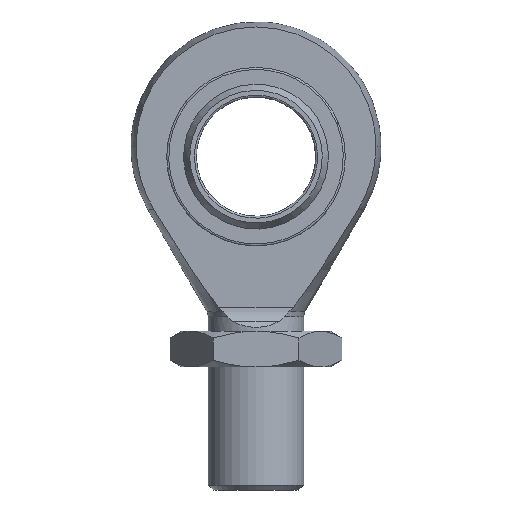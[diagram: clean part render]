
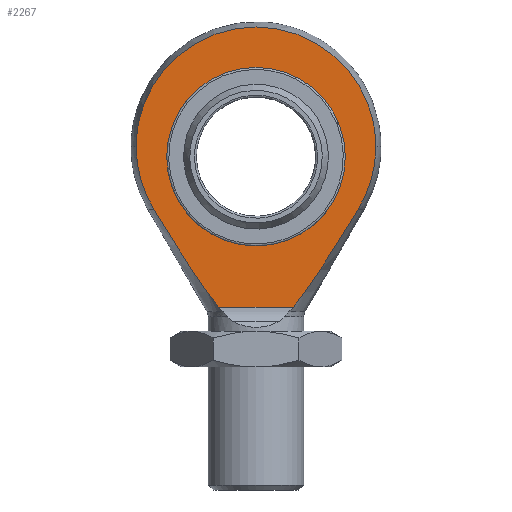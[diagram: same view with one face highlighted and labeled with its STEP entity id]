
A CAD part, front view. The second image highlights one B-rep face of the part: STEP entity #2267.
In plain terms, the highlighted free-form (B-spline) face has degree [1, 1] with [2, 2] control points.
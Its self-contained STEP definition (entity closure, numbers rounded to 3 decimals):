
#202=CARTESIAN_POINT('',(51.505,-18.,-31.5));
#203=CARTESIAN_POINT('',(49.885,-18.,-34.149));
#204=CARTESIAN_POINT('',(46.806,-18.,-39.155));
#205=CARTESIAN_POINT('',(42.706,-18.,-45.743));
#206=CARTESIAN_POINT('',(39.043,-18.,-51.549));
#207=CARTESIAN_POINT('',(35.767,-18.,-56.661));
#208=CARTESIAN_POINT('',(32.825,-18.,-61.172));
#209=CARTESIAN_POINT('',(30.184,-18.,-65.143));
#210=CARTESIAN_POINT('',(27.806,-18.,-68.642));
#211=CARTESIAN_POINT('',(25.663,-18.,-71.719));
#212=CARTESIAN_POINT('',(23.726,-18.,-74.43));
#213=CARTESIAN_POINT('',(21.963,-18.,-76.828));
#214=CARTESIAN_POINT('',(20.346,-18.,-78.959));
#215=CARTESIAN_POINT('',(19.335,-18.,-80.249));
#216=CARTESIAN_POINT('',(18.849,-18.,-80.858));
#218=CARTESIAN_POINT('',(0.,-18.,0.));
#219=DIRECTION('',(0.,1.,0.));
#220=DIRECTION('',(1.,0.,0.));
#221=AXIS2_PLACEMENT_3D('',#218,#219,#220);
#228=CARTESIAN_POINT('',(0.,-18.,-5.));
#229=DIRECTION('',(0.,1.,0.));
#230=DIRECTION('',(0.,0.,-1.));
#231=AXIS2_PLACEMENT_3D('',#228,#229,#230);
#233=CARTESIAN_POINT('',(0.,-18.,-5.));
#234=DIRECTION('',(0.,1.,0.));
#235=DIRECTION('',(0.,0.,1.));
#236=AXIS2_PLACEMENT_3D('',#233,#234,#235);
#254=CARTESIAN_POINT('',(-18.849,-18.,-80.858));
#255=CARTESIAN_POINT('',(-19.308,-18.,-80.283));
#256=CARTESIAN_POINT('',(-20.249,-18.,-79.084));
#257=CARTESIAN_POINT('',(-21.71,-18.,-77.163));
#258=CARTESIAN_POINT('',(-23.273,-18.,-75.05));
#259=CARTESIAN_POINT('',(-24.965,-18.,-72.702));
#260=CARTESIAN_POINT('',(-26.821,-18.,-70.063));
#261=CARTESIAN_POINT('',(-28.872,-18.,-67.081));
#262=CARTESIAN_POINT('',(-31.147,-18.,-63.703));
#263=CARTESIAN_POINT('',(-33.676,-18.,-59.875));
#264=CARTESIAN_POINT('',(-36.49,-18.,-55.538));
#265=CARTESIAN_POINT('',(-39.62,-18.,-50.639));
#266=CARTESIAN_POINT('',(-43.116,-18.,-45.087));
#267=CARTESIAN_POINT('',(-47.027,-18.,-38.796));
#268=CARTESIAN_POINT('',(-49.961,-18.,-34.024));
#269=CARTESIAN_POINT('',(-51.505,-18.,-31.5));
#358=CARTESIAN_POINT('',(-18.849,-18.,-80.858));
#366=DIRECTION('',(-1.,0.,0.));
#367=VECTOR('',#366,37.697);
#368=CARTESIAN_POINT('',(18.849,-18.,-80.858));
#369=LINE('',#368,#367);
#376=CARTESIAN_POINT('',(18.849,-18.,-80.858));
#1004=CARTESIAN_POINT('',(0.,-18.,0.));
#1005=DIRECTION('',(0.,1.,0.));
#1006=DIRECTION('',(-0.853,0.,-0.522));
#1007=AXIS2_PLACEMENT_3D('',#1004,#1005,#1006);
#1034=CARTESIAN_POINT('',(0.,-18.,0.));
#1035=DIRECTION('',(0.,-1.,0.));
#1036=DIRECTION('',(1.,0.,0.));
#1037=AXIS2_PLACEMENT_3D('',#1034,#1035,#1036);
#1217=VERTEX_POINT('',#358);
#1267=CARTESIAN_POINT('',(0.,-18.,-50.));
#1268=CARTESIAN_POINT('',(0.,-18.,40.));
#1269=VERTEX_POINT('',#1267);
#1270=VERTEX_POINT('',#1268);
#1283=VERTEX_POINT('',#376);
#1308=VERTEX_POINT('',#269);
#1310=VERTEX_POINT('',#202);
#1315=CARTESIAN_POINT('',(-60.374,-18.,0.));
#1316=VERTEX_POINT('',#1315);
#1318=CARTESIAN_POINT('',(60.374,-18.,0.));
#1320=VERTEX_POINT('',#1318);
#2244=CARTESIAN_POINT('',(-62.789,-18.,63.203));
#2245=CARTESIAN_POINT('',(62.789,-18.,63.203));
#2246=CARTESIAN_POINT('',(-62.789,-18.,-83.683));
#2247=CARTESIAN_POINT('',(62.789,-18.,-83.683));
#2248=B_SPLINE_SURFACE_WITH_KNOTS('',1,1,((#2244,#2245),(#2246,#2247)),
.UNSPECIFIED.,.F.,.F.,.F.,(2,2),(2,2),(-2.829,144.056),(
32.211,157.789),.UNSPECIFIED.);
#2250=ORIENTED_EDGE('',*,*,#2249,.T.);
#2252=ORIENTED_EDGE('',*,*,#2251,.T.);
#2254=ORIENTED_EDGE('',*,*,#2253,.F.);
#2255=ORIENTED_EDGE('',*,*,#2233,.T.);
#2256=ORIENTED_EDGE('',*,*,#2146,.T.);
#2258=ORIENTED_EDGE('',*,*,#2257,.T.);
#2259=EDGE_LOOP('',(#2250,#2252,#2254,#2255,#2256,#2258));
#2260=FACE_OUTER_BOUND('',#2259,.F.);
#2262=ORIENTED_EDGE('',*,*,#2261,.F.);
#2264=ORIENTED_EDGE('',*,*,#2263,.F.);
#2265=EDGE_LOOP('',(#2262,#2264));
#2266=FACE_BOUND('',#2265,.F.);
#2267=ADVANCED_FACE('',(#2260,#2266),#2248,.T.);
#217=B_SPLINE_CURVE_WITH_KNOTS('',3,(#202,#203,#204,#205,#206,#207,#208,#209,
#210,#211,#212,#213,#214,#215,#216),.UNSPECIFIED.,.F.,.F.,(4,1,1,1,1,1,1,1,1,1,
1,1,4),(0.,0.083,0.167,0.25,0.333,
0.417,0.5,0.583,0.667,0.75,
0.833,0.917,1.),.UNSPECIFIED.);
#222=CIRCLE('',#221,60.374);
#232=CIRCLE('',#231,45.);
#237=CIRCLE('',#236,45.);
#270=B_SPLINE_CURVE_WITH_KNOTS('',3,(#254,#255,#256,#257,#258,#259,#260,#261,
#262,#263,#264,#265,#266,#267,#268,#269),.UNSPECIFIED.,.F.,.F.,(4,1,1,1,1,1,1,1,
1,1,1,1,1,4),(0.,0.077,0.154,0.231,
0.308,0.385,0.462,0.538,
0.615,0.692,0.769,0.846,
0.923,1.),.UNSPECIFIED.);
#1008=CIRCLE('',#1007,60.374);
#1038=CIRCLE('',#1037,60.374);
#2146=EDGE_CURVE('',#1310,#1283,#217,.T.);
#2233=EDGE_CURVE('',#1320,#1310,#222,.T.);
#2249=EDGE_CURVE('',#1217,#1308,#270,.T.);
#2251=EDGE_CURVE('',#1308,#1316,#1008,.T.);
#2253=EDGE_CURVE('',#1320,#1316,#1038,.T.);
#2257=EDGE_CURVE('',#1283,#1217,#369,.T.);
#2261=EDGE_CURVE('',#1269,#1270,#232,.T.);
#2263=EDGE_CURVE('',#1270,#1269,#237,.T.);
